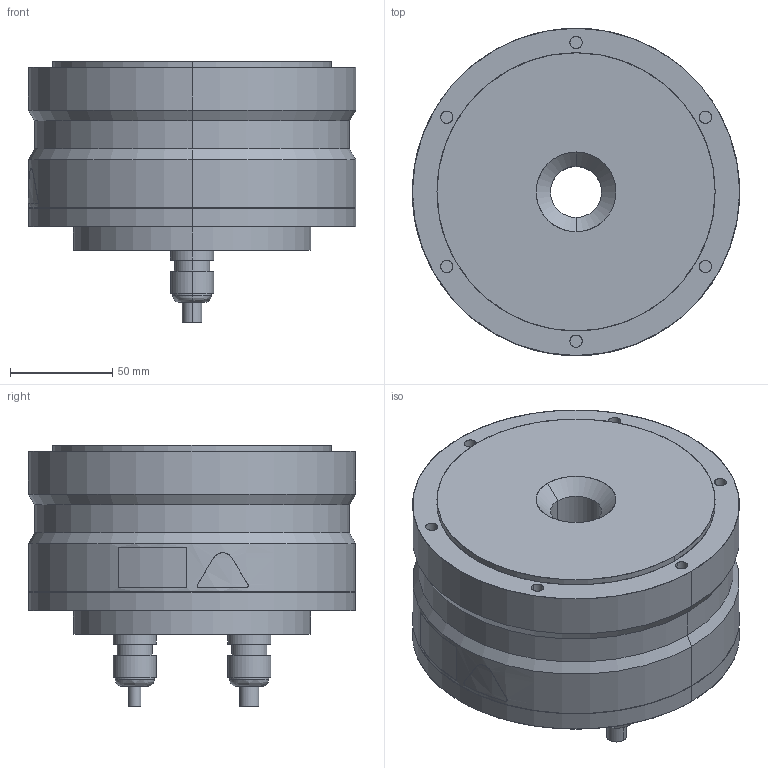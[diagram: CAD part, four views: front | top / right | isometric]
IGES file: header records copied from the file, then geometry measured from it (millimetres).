
Start section: SolidWorks IGES file using analytic representation for surfaces
Bounding box: 160.06 x 160 x 127.9 mm (x, y, z)
Surface area: 100794.6 mm2 (no closed solid volume)
Topology: 0 solids, 0 shells, 211 faces, 4654 edges, 4654 vertices
Faces by surface type: revolution 128, bspline 83
